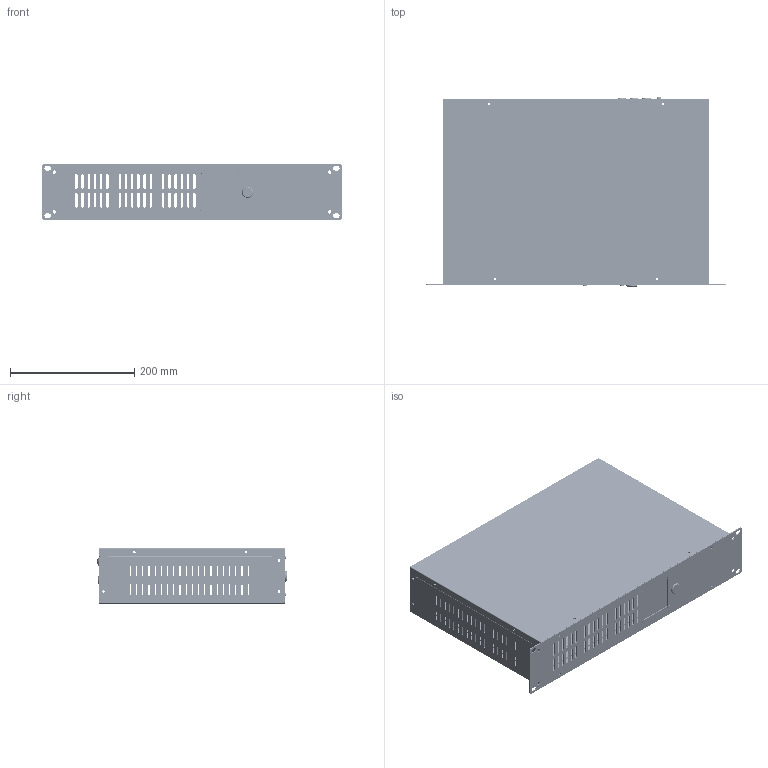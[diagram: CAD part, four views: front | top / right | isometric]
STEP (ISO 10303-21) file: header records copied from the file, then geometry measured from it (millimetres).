
FILE_DESCRIPTION (( 'STEP AP214' ), '1' );
FILE_NAME ('YFFJ17-010005 軞盄啣縐2U儂眊.STEP', '2026-07-15T03:28:56', ( '' ), ( '' ), 'SwSTEP 2.0', 'SolidWorks 2022', '' );
FILE_SCHEMA (( 'AUTOMOTIVE_DESIGN' ));
Length unit declared in the file: millimetre
Products named in the file (1): YFFJ17-010005 总线板卡2U机箱
Bounding box: 483 x 304.7 x 89 mm (x, y, z)
Surface area: 1108152.6 mm2 (no closed solid volume)
Topology: 0 solids, 120 shells, 10626 faces, 28444 edges, 18305 vertices
Faces by surface type: plane 4623, cylinder 4362, bspline 783, cone 716, torus 116, sphere 26
Entity records: 562849 total; most frequent: CARTESIAN_POINT 191021, ORIENTED_EDGE 56632, DIRECTION 51432, EDGE_CURVE 28316, AXIS2_PLACEMENT_3D 18480, VERTEX_POINT 18305, LINE 14472, VECTOR 14472
